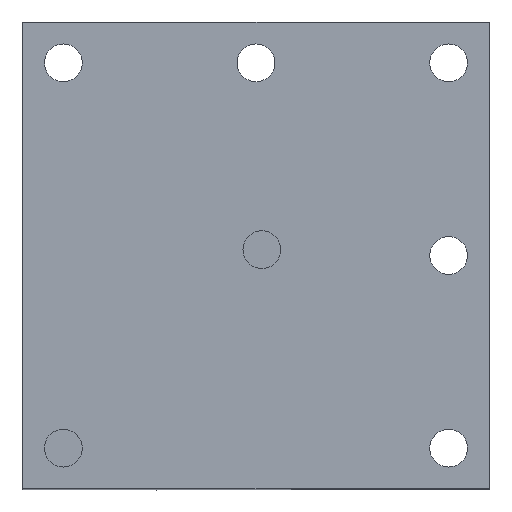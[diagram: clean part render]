
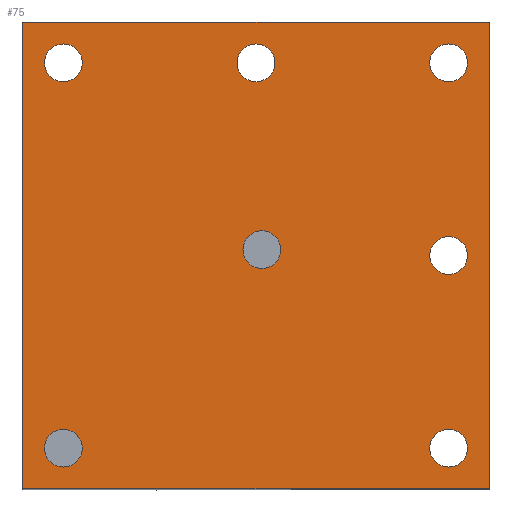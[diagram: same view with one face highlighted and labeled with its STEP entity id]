
A CAD part, top view. The second image highlights one B-rep face of the part: STEP entity #75.
In plain terms, the highlighted planar face has unit normal (0, 0, 1).
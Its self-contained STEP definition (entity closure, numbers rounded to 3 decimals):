
#75 = ADVANCED_FACE( '', ( #158, #159, #160, #161, #162, #163, #164, #165 ), #166, .T. );
#158 = FACE_BOUND( '', #254, .T. );
#159 = FACE_BOUND( '', #255, .T. );
#160 = FACE_OUTER_BOUND( '', #256, .T. );
#161 = FACE_BOUND( '', #257, .T. );
#162 = FACE_BOUND( '', #258, .T. );
#163 = FACE_BOUND( '', #259, .T. );
#164 = FACE_BOUND( '', #260, .T. );
#165 = FACE_BOUND( '', #261, .T. );
#166 = PLANE( '', #262 );
#254 = EDGE_LOOP( '', ( #398 ) );
#255 = EDGE_LOOP( '', ( #399 ) );
#256 = EDGE_LOOP( '', ( #400, #401, #402, #403 ) );
#257 = EDGE_LOOP( '', ( #404 ) );
#258 = EDGE_LOOP( '', ( #405 ) );
#259 = EDGE_LOOP( '', ( #406 ) );
#260 = EDGE_LOOP( '', ( #407 ) );
#261 = EDGE_LOOP( '', ( #408 ) );
#262 = AXIS2_PLACEMENT_3D( '', #409, #410, #411 );
#398 = ORIENTED_EDGE( '', *, *, #487, .F. );
#399 = ORIENTED_EDGE( '', *, *, #504, .F. );
#400 = ORIENTED_EDGE( '', *, *, #525, .T. );
#401 = ORIENTED_EDGE( '', *, *, #498, .T. );
#402 = ORIENTED_EDGE( '', *, *, #506, .T. );
#403 = ORIENTED_EDGE( '', *, *, #526, .T. );
#404 = ORIENTED_EDGE( '', *, *, #527, .F. );
#405 = ORIENTED_EDGE( '', *, *, #477, .F. );
#406 = ORIENTED_EDGE( '', *, *, #480, .F. );
#407 = ORIENTED_EDGE( '', *, *, #514, .F. );
#408 = ORIENTED_EDGE( '', *, *, #528, .F. );
#409 = CARTESIAN_POINT( '', ( 0., 0., 0. ) );
#410 = DIRECTION( '', ( 0., 0., 1. ) );
#411 = DIRECTION( '', ( 1., 0., 0. ) );
#477 = EDGE_CURVE( '', #545, #545, #546, .T. );
#480 = EDGE_CURVE( '', #550, #550, #551, .T. );
#487 = EDGE_CURVE( '', #562, #562, #563, .T. );
#498 = EDGE_CURVE( '', #582, #580, #583, .T. );
#504 = EDGE_CURVE( '', #591, #591, #592, .T. );
#506 = EDGE_CURVE( '', #580, #594, #595, .T. );
#514 = EDGE_CURVE( '', #605, #605, #606, .T. );
#525 = EDGE_CURVE( '', #619, #582, #620, .T. );
#526 = EDGE_CURVE( '', #594, #619, #621, .T. );
#527 = EDGE_CURVE( '', #622, #622, #623, .T. );
#528 = EDGE_CURVE( '', #624, #624, #625, .T. );
#545 = VERTEX_POINT( '', #645 );
#546 = CIRCLE( '', #646, 3.24 );
#550 = VERTEX_POINT( '', #650 );
#551 = CIRCLE( '', #651, 3.24 );
#562 = VERTEX_POINT( '', #664 );
#563 = CIRCLE( '', #665, 3.24 );
#580 = VERTEX_POINT( '', #687 );
#582 = VERTEX_POINT( '', #690 );
#583 = LINE( '', #691, #692 );
#591 = VERTEX_POINT( '', #704 );
#592 = CIRCLE( '', #705, 3.24 );
#594 = VERTEX_POINT( '', #707 );
#595 = LINE( '', #708, #709 );
#605 = VERTEX_POINT( '', #722 );
#606 = CIRCLE( '', #723, 3.24 );
#619 = VERTEX_POINT( '', #739 );
#620 = LINE( '', #740, #741 );
#621 = LINE( '', #742, #743 );
#622 = VERTEX_POINT( '', #744 );
#623 = CIRCLE( '', #745, 3.24 );
#624 = VERTEX_POINT( '', #746 );
#625 = CIRCLE( '', #747, 3.24 );
#645 = CARTESIAN_POINT( '', ( -29.76, 0., 0. ) );
#646 = AXIS2_PLACEMENT_3D( '', #770, #771, #772 );
#650 = CARTESIAN_POINT( '', ( 3.24, -66., 0. ) );
#651 = AXIS2_PLACEMENT_3D( '', #776, #777, #778 );
#664 = CARTESIAN_POINT( '', ( -62.76, -66., 0. ) );
#665 = AXIS2_PLACEMENT_3D( '', #787, #788, #789 );
#687 = CARTESIAN_POINT( '', ( 7., -73., 0. ) );
#690 = CARTESIAN_POINT( '', ( -73., -73., 0. ) );
#691 = CARTESIAN_POINT( '', ( -73., -73., 0. ) );
#692 = VECTOR( '', #799, 1000. );
#704 = CARTESIAN_POINT( '', ( -28.76, -32., 0. ) );
#705 = AXIS2_PLACEMENT_3D( '', #804, #805, #806 );
#707 = CARTESIAN_POINT( '', ( 7., 7., 0. ) );
#708 = CARTESIAN_POINT( '', ( 7., -73., 0. ) );
#709 = VECTOR( '', #807, 1000. );
#722 = CARTESIAN_POINT( '', ( 3.24, -33., 0. ) );
#723 = AXIS2_PLACEMENT_3D( '', #817, #818, #819 );
#739 = CARTESIAN_POINT( '', ( -73., 7., 0. ) );
#740 = CARTESIAN_POINT( '', ( -73., 7., 0. ) );
#741 = VECTOR( '', #832, 1000. );
#742 = CARTESIAN_POINT( '', ( 7., 7., 0. ) );
#743 = VECTOR( '', #833, 1000. );
#744 = CARTESIAN_POINT( '', ( -62.76, 0., 0. ) );
#745 = AXIS2_PLACEMENT_3D( '', #834, #835, #836 );
#746 = CARTESIAN_POINT( '', ( 3.24, 0., 0. ) );
#747 = AXIS2_PLACEMENT_3D( '', #837, #838, #839 );
#770 = CARTESIAN_POINT( '', ( -33., 0., 0. ) );
#771 = DIRECTION( '', ( 0., 0., 1. ) );
#772 = DIRECTION( '', ( 1., 0., 0. ) );
#776 = CARTESIAN_POINT( '', ( 0., -66., 0. ) );
#777 = DIRECTION( '', ( 0., 0., 1. ) );
#778 = DIRECTION( '', ( 1., 0., 0. ) );
#787 = CARTESIAN_POINT( '', ( -66., -66., 0. ) );
#788 = DIRECTION( '', ( 0., 0., 1. ) );
#789 = DIRECTION( '', ( 1., 0., 0. ) );
#799 = DIRECTION( '', ( 1., 0., 0. ) );
#804 = CARTESIAN_POINT( '', ( -32., -32., 0. ) );
#805 = DIRECTION( '', ( 0., 0., 1. ) );
#806 = DIRECTION( '', ( 1., 0., 0. ) );
#807 = DIRECTION( '', ( 0., 1., 0. ) );
#817 = CARTESIAN_POINT( '', ( 0., -33., 0. ) );
#818 = DIRECTION( '', ( 0., 0., 1. ) );
#819 = DIRECTION( '', ( 1., 0., 0. ) );
#832 = DIRECTION( '', ( 0., -1., 0. ) );
#833 = DIRECTION( '', ( -1., 0., 0. ) );
#834 = CARTESIAN_POINT( '', ( -66., 0., 0. ) );
#835 = DIRECTION( '', ( 0., 0., 1. ) );
#836 = DIRECTION( '', ( 1., 0., 0. ) );
#837 = CARTESIAN_POINT( '', ( 0., 0., 0. ) );
#838 = DIRECTION( '', ( 0., 0., 1. ) );
#839 = DIRECTION( '', ( 1., 0., 0. ) );
